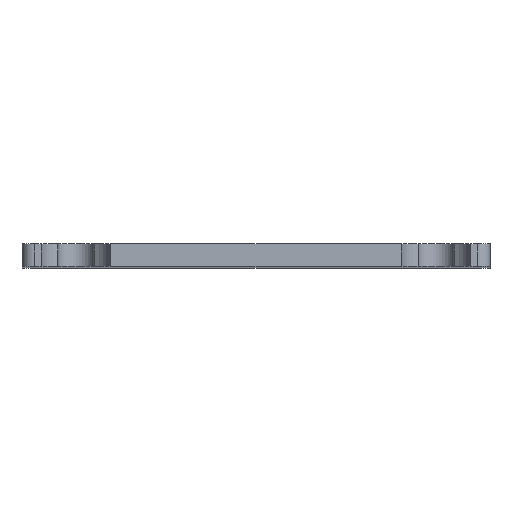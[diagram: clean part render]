
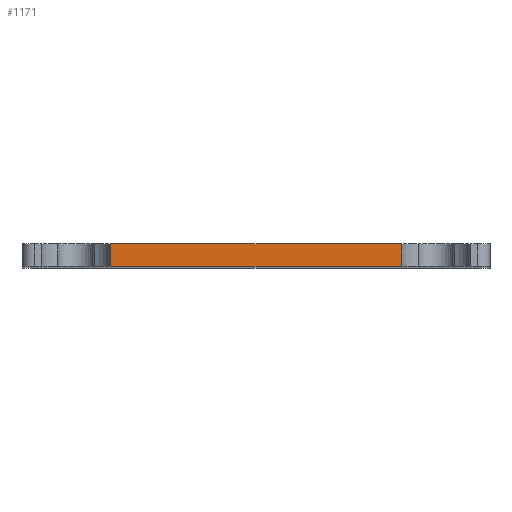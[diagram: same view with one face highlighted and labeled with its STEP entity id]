
A CAD part, top view. The second image highlights one B-rep face of the part: STEP entity #1171.
In plain terms, the highlighted planar face has unit normal (0, 0, 1).
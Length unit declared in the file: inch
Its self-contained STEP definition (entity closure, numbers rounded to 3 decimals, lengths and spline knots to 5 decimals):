
#104=DIRECTION('',(1.,0.,0.));
#105=VECTOR('',#104,1.6127);
#106=CARTESIAN_POINT('',(-0.80635,-0.125,2.9));
#107=LINE('',#106,#105);
#191=DIRECTION('',(1.,0.,0.));
#192=VECTOR('',#191,1.6127);
#193=CARTESIAN_POINT('',(-0.80635,0.,2.9));
#194=LINE('',#193,#192);
#325=DIRECTION('',(0.,1.,0.));
#326=VECTOR('',#325,0.125);
#327=CARTESIAN_POINT('',(0.80635,-0.125,2.9));
#328=LINE('',#327,#326);
#329=DIRECTION('',(0.,1.,0.));
#330=VECTOR('',#329,0.125);
#331=CARTESIAN_POINT('',(-0.80635,-0.125,2.9));
#332=LINE('',#331,#330);
#709=CARTESIAN_POINT('',(0.80635,0.,2.9));
#710=VERTEX_POINT('',#709);
#721=CARTESIAN_POINT('',(-0.80635,0.,2.9));
#723=VERTEX_POINT('',#721);
#741=CARTESIAN_POINT('',(0.80635,-0.125,2.9));
#742=VERTEX_POINT('',#741);
#753=CARTESIAN_POINT('',(-0.80635,-0.125,2.9));
#755=VERTEX_POINT('',#753);
#1158=CARTESIAN_POINT('',(-1.3,0.,2.9));
#1159=DIRECTION('',(0.,0.,1.));
#1160=DIRECTION('',(1.,0.,0.));
#1161=AXIS2_PLACEMENT_3D('',#1158,#1159,#1160);
#1162=PLANE('',#1161);
#1164=ORIENTED_EDGE('',*,*,#1163,.F.);
#1165=ORIENTED_EDGE('',*,*,#899,.F.);
#1167=ORIENTED_EDGE('',*,*,#1166,.T.);
#1168=ORIENTED_EDGE('',*,*,#990,.T.);
#1169=EDGE_LOOP('',(#1164,#1165,#1167,#1168));
#1170=FACE_OUTER_BOUND('',#1169,.F.);
#1171=ADVANCED_FACE('',(#1170),#1162,.T.);
#899=EDGE_CURVE('',#755,#742,#107,.T.);
#990=EDGE_CURVE('',#723,#710,#194,.T.);
#1163=EDGE_CURVE('',#742,#710,#328,.T.);
#1166=EDGE_CURVE('',#755,#723,#332,.T.);
